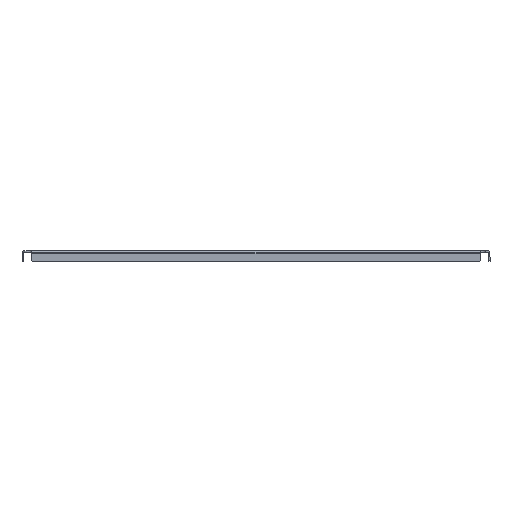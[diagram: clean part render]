
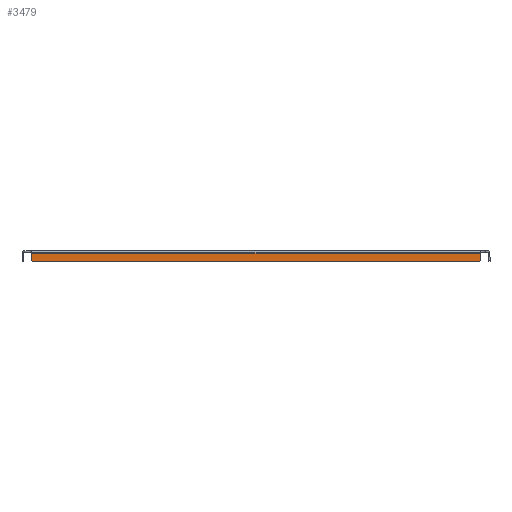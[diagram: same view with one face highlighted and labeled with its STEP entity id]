
A CAD part, front view. The second image highlights one B-rep face of the part: STEP entity #3479.
In plain terms, the highlighted planar face has unit normal (0, -1, 0).
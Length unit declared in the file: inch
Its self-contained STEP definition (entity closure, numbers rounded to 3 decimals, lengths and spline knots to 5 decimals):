
#964 = AXIS2_PLACEMENT_3D ( 'NONE', #2282, #2599, #2296 ) ;
#1113 = ORIENTED_EDGE ( 'NONE', *, *, #3505, .F. ) ;
#1114 = ORIENTED_EDGE ( 'NONE', *, *, #2789, .T. ) ;
#1136 = ORIENTED_EDGE ( 'NONE', *, *, #2748, .F. ) ;
#1137 = ORIENTED_EDGE ( 'NONE', *, *, #2854, .T. ) ;
#1138 = ORIENTED_EDGE ( 'NONE', *, *, #2698, .F. ) ;
#1139 = ORIENTED_EDGE ( 'NONE', *, *, #2764, .F. ) ;
#1548 = CARTESIAN_POINT ( 'NONE',  ( 16.374, -29.1, -0.076 ) ) ;
#1638 = DIRECTION ( 'NONE',  ( 0.707, 0., 0.707 ) ) ;
#1639 = CARTESIAN_POINT ( 'NONE',  ( 16.374, -29.1, -0.593 ) ) ;
#1673 = DIRECTION ( 'NONE',  ( 0., 0., -1. ) ) ;
#1689 = CARTESIAN_POINT ( 'NONE',  ( 16.374, -29.1, 0. ) ) ;
#1837 = DIRECTION ( 'NONE',  ( 0.707, 0., -0.707 ) ) ;
#1844 = CARTESIAN_POINT ( 'NONE',  ( -16.314, -29.1, -0.653 ) ) ;
#1915 = DIRECTION ( 'NONE',  ( 1., 0., 0. ) ) ;
#1918 = CARTESIAN_POINT ( 'NONE',  ( 16.374, -29.1, -0.076 ) ) ;
#1967 = DIRECTION ( 'NONE',  ( -1., 0., 0. ) ) ;
#1969 = CARTESIAN_POINT ( 'NONE',  ( 16.374, -29.1, -0.653 ) ) ;
#2109 = CARTESIAN_POINT ( 'NONE',  ( -16.374, -29.1, -0.076 ) ) ;
#2260 = PLANE ( 'NONE',  #964 ) ;
#2282 = CARTESIAN_POINT ( 'NONE',  ( 16.374, -29.1, -0.653 ) ) ;
#2296 = DIRECTION ( 'NONE',  ( 0., 0., 1. ) ) ;
#2408 = CARTESIAN_POINT ( 'NONE',  ( 16.374, -29.1, -0.593 ) ) ;
#2419 = CARTESIAN_POINT ( 'NONE',  ( -16.374, -29.1, -0.593 ) ) ;
#2517 = CARTESIAN_POINT ( 'NONE',  ( -16.374, -29.1, -0.653 ) ) ;
#2524 = DIRECTION ( 'NONE',  ( 0., 0., 1. ) ) ;
#2552 = CARTESIAN_POINT ( 'NONE',  ( 16.314, -29.1, -0.653 ) ) ;
#2598 = CARTESIAN_POINT ( 'NONE',  ( -16.314, -29.1, -0.653 ) ) ;
#2599 = DIRECTION ( 'NONE',  ( 0., 1., 0. ) ) ;
#2698 = EDGE_CURVE ( 'NONE', #3152, #3398, #3115, .T. ) ;
#2748 = EDGE_CURVE ( 'NONE', #3426, #3303, #4186, .T. ) ;
#2764 = EDGE_CURVE ( 'NONE', #3322, #3152, #4156, .T. ) ;
#2789 = EDGE_CURVE ( 'NONE', #3330, #3303, #4119, .T. ) ;
#2854 = EDGE_CURVE ( 'NONE', #3426, #3398, #3996, .T. ) ;
#3024 = VECTOR ( 'NONE', #1673, 39.37008 ) ;
#3115 = LINE ( 'NONE', #1689, #3024 ) ;
#3152 = VERTEX_POINT ( 'NONE', #1548 ) ;
#3303 = VERTEX_POINT ( 'NONE', #2598 ) ;
#3322 = VERTEX_POINT ( 'NONE', #2109 ) ;
#3330 = VERTEX_POINT ( 'NONE', #2419 ) ;
#3398 = VERTEX_POINT ( 'NONE', #2408 ) ;
#3426 = VERTEX_POINT ( 'NONE', #2552 ) ;
#3479 = ADVANCED_FACE ( 'NONE', ( #3887 ), #2260, .F. ) ;
#3505 = EDGE_CURVE ( 'NONE', #3330, #3322, #3873, .T. ) ;
#3849 = VECTOR ( 'NONE', #2524, 39.37008 ) ;
#3873 = LINE ( 'NONE', #2517, #3849 ) ;
#3887 = FACE_OUTER_BOUND ( 'NONE', #4550, .T. ) ;
#3996 = LINE ( 'NONE', #1639, #4009 ) ;
#4009 = VECTOR ( 'NONE', #1638, 39.37008 ) ;
#4108 = VECTOR ( 'NONE', #1837, 39.37008 ) ;
#4119 = LINE ( 'NONE', #1844, #4108 ) ;
#4155 = VECTOR ( 'NONE', #1915, 39.37008 ) ;
#4156 = LINE ( 'NONE', #1918, #4155 ) ;
#4185 = VECTOR ( 'NONE', #1967, 39.37008 ) ;
#4186 = LINE ( 'NONE', #1969, #4185 ) ;
#4550 = EDGE_LOOP ( 'NONE', ( #1136, #1137, #1138, #1139, #1113, #1114 ) ) ;
